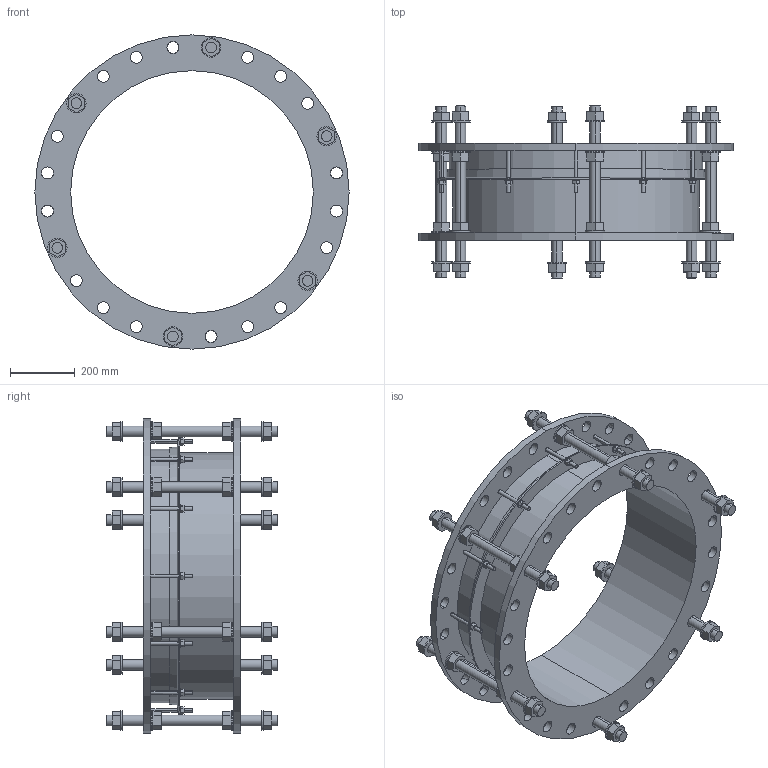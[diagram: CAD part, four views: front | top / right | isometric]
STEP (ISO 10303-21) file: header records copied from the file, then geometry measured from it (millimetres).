
FILE_DESCRIPTION((''),'2;1');
FILE_NAME('LO2_DJ_BIM_ASM','2020-11-27T',('mfairey'),('Glynwed Pipe Systems'),'CREO PARAMETRIC BY PTC INC, 2016130','CREO PARAMETRIC BY PTC INC, 2016130','');
FILE_SCHEMA(('CONFIG_CONTROL_DESIGN'));
Length unit declared in the file: millimetre
Products named in the file (3): DJ_AF0; TIE_BOLT_BIM; LO2_DJ_BIM_ASM
Assembly tree (7 placements, depth 2):
  LO2_DJ_BIM_ASM
    DJ_AF0
    TIE_BOLT_BIM  x6
Bounding box: 970 x 530 x 970 mm (x, y, z)
Volume: 23482332.9 mm3; surface area: 3367247.7 mm2
Topology: 7 solids, 7 shells, 646 faces, 1574 edges, 1040 vertices
Faces by surface type: plane 354, cylinder 288, cone 4
Entity records: 12356 total; most frequent: CARTESIAN_POINT 2692, DIRECTION 2092, ORIENTED_EDGE 1888, EDGE_CURVE 944, AXIS2_PLACEMENT_3D 800, VERTEX_POINT 620, EDGE_LOOP 526, VECTOR 492
